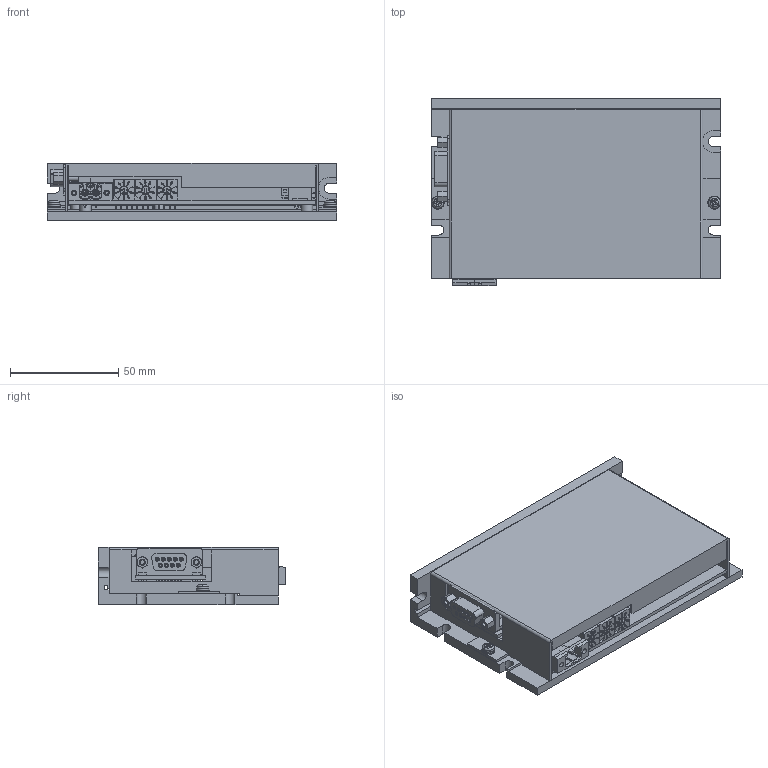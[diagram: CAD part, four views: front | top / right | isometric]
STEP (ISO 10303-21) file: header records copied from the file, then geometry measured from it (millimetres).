
FILE_DESCRIPTION (( 'STEP AP203' ), '1' );
FILE_NAME ('P52-DR-000-03-R00.STEP', '2016-12-21T06:36:50', ( '' ), ( '' ), 'SwSTEP 2.0', 'SolidWorks 2013', '' );
FILE_SCHEMA (( 'CONFIG_CONTROL_DESIGN' ));
Length unit declared in the file: millimetre
Products named in the file (17): 442480029; PCB; YD-04GA; PTR_STL950_2F_50_H_HC-1; pan cross head_ks_KS 1023 PC- M3 x 6-N; PTR_STL950_2F_50_H_HC-2; spring lock washer_ks_KS 1324 - M3; PTR_STL950_2F_50_H_HC; plain washer small grade a_iso_Washer ISO 7092 - 3; _S-2031A_body; connector_a-df_09_a_kg-t2; _Without knob-Dial_1; P52-DR-000-03-R00; S-2031A; M11-DR-000-01-R02; Ezi-MOTIONGATE PCB; M52-DR-000-01-R00
Assembly tree (21 placements, depth 3):
  P52-DR-000-03-R00
    M11-DR-000-01-R02
    M52-DR-000-01-R00
    PCB
    PTR_STL950_2F_50_H_HC
      PTR_STL950_2F_50_H_HC-1
      PTR_STL950_2F_50_H_HC-2
    S-2031A  x3
      _S-2031A_body
      _Without knob-Dial_1
    Ezi-MOTIONGATE PCB
    442480029
    YD-04GA
    pan cross head_ks_KS 1023 PC- M3 x 6-N  x2
    spring lock washer_ks_KS 1324 - M3  x2
    plain washer small grade a_iso_Washer ISO 7092 - 3  x2
    connector_a-df_09_a_kg-t2
Bounding box: 134 x 86.8 x 26.5 mm (x, y, z)
Volume: 109941.1 mm3; surface area: 90296.8 mm2
Topology: 21 solids, 21 shells, 2648 faces, 7208 edges, 4741 vertices
Faces by surface type: plane 1663, cylinder 851, cone 83, bspline 39, torus 8, sphere 4
Entity records: 64750 total; most frequent: CARTESIAN_POINT 12541, ORIENTED_EDGE 10652, DIRECTION 10209, EDGE_CURVE 5326, LINE 4061, VECTOR 4061, VERTEX_POINT 3502, AXIS2_PLACEMENT_3D 3074
